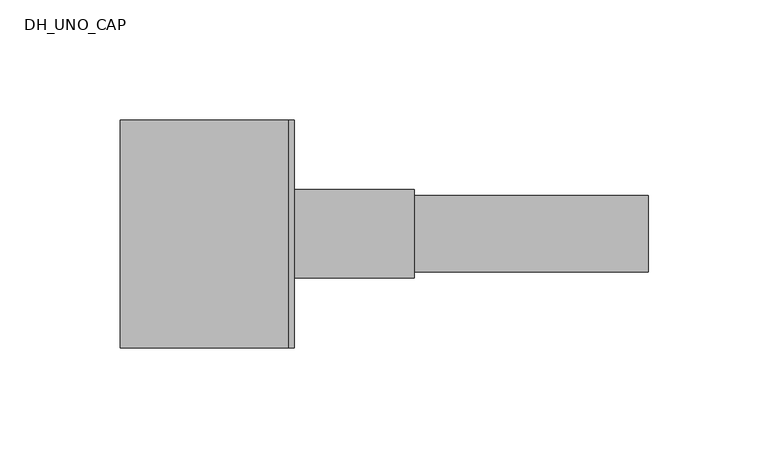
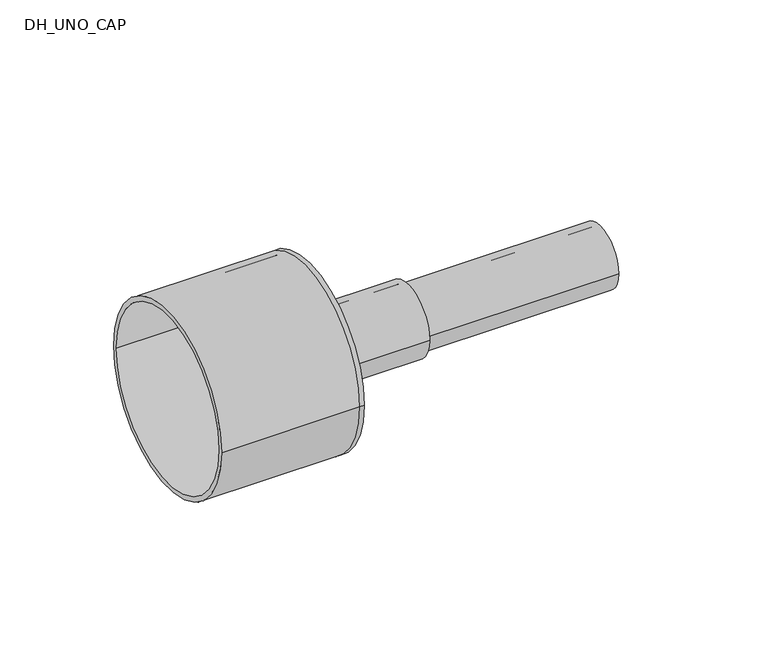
"""IFC4 building model written with IfcOpenShell, lengths in millimetres: pipe fitting geometry, DH_UNO_CAP : INSULPEX UNO + 11 Heating - Rubber Cap."""

from ifc_helpers import new_model, si_unit, point, frame, origin, origin_2d, place, context, project, spatial, polyline, circle_curve, trimmed, segment, composite_curve, outline, extrude, source, transform, mapped, element, save
from ifc_brep_helpers import plane_surface, cylinder_surface, revolved_surface, advanced_brep


def dh_uno_cap_5460b27a(model_context):
    return source(origin(), model_context, "Body", "SolidModel", [
        extrude(outline(composite_curve([segment(trimmed(circle_curve(origin_2d(), 16.0), [point((-16.0, 0.0))], [point((16.0, 0.0))], False, "CARTESIAN"), True, "CONTINUOUS"), segment(trimmed(circle_curve(origin_2d(), 16.0), [point((16.0, 0.0))], [point((-16.0, 0.0))], False, "CARTESIAN"), True, "CONTINUOUS")], self_intersect=False), holes=[composite_curve([segment(trimmed(circle_curve(origin_2d(), 13.1), [point((-13.1, 0.0))], [point((13.1, 0.0))], True, "CARTESIAN"), True, "CONTINUOUS"), segment(trimmed(circle_curve(origin_2d(), 13.1), [point((13.1, 0.0))], [point((-13.1, 0.0))], True, "CARTESIAN"), True, "CONTINUOUS")], self_intersect=False)]), frame((0.0, 0.0, 0.0), z_axis=(1.0, 0.0, 0.0), x_axis=(0.0, 1.0, 0.0)), (0.0, 0.0, 1.0), 150.0),
        advanced_brep(
        [(-70.0, -47.5, 0.0), (-70.0, 47.5, 0.0), (-70.0, -45.0, 0.0), (-70.0, 45.0, 0.0), (0.0, -45.0, 0.0), (0.0, 45.0, 0.0), (0.0, -47.5, 0.0), (0.0, 47.5, 0.0), (0.0, 16.0, 0.0), (0.0, -16.0, 0.0), (2.5, -47.5, 0.0), (2.5, 47.5, 0.0), (2.5, -16.0, 0.0), (2.5, 16.0, 0.0)],
        [
            (0, 1, circle_curve(frame((-70.0, 0.0, 0.0), z_axis=(-1.0, 0.0, 0.0), x_axis=(0.0, 1.0, 0.0)), 47.5)),
            (1, 0, circle_curve(frame((-70.0, 0.0, 0.0), z_axis=(-1.0, 0.0, 0.0), x_axis=(0.0, 1.0, 0.0)), 47.5)),
            (2, 3, circle_curve(frame((-70.0, 0.0, 0.0), z_axis=(1.0, 0.0, 0.0), x_axis=(0.0, 1.0, 0.0)), 45.0)),
            (3, 2, circle_curve(frame((-70.0, 0.0, 0.0), z_axis=(1.0, 0.0, 0.0), x_axis=(0.0, 1.0, 0.0)), 45.0)),
            (2, 4),
            (4, 5, circle_curve(frame((0.0, 0.0, 0.0), z_axis=(1.0, 0.0, 0.0), x_axis=(0.0, 1.0, 0.0)), 45.0)),
            (5, 3),
            (5, 4, circle_curve(frame((0.0, 0.0, 0.0), z_axis=(1.0, 0.0, 0.0), x_axis=(0.0, 1.0, 0.0)), 45.0)),
            (0, 6),
            (6, 7, circle_curve(frame((0.0, 0.0, 0.0), z_axis=(-1.0, 0.0, 0.0), x_axis=(0.0, 1.0, 0.0)), 47.5)),
            (7, 1),
            (7, 6, circle_curve(frame((0.0, 0.0, 0.0), z_axis=(-1.0, 0.0, 0.0), x_axis=(0.0, 1.0, 0.0)), 47.5)),
            (8, 9, circle_curve(frame((0.0, 0.0, 0.0), z_axis=(1.0, 0.0, 0.0), x_axis=(0.0, 1.0, 0.0)), 16.0)),
            (9, 8, circle_curve(frame((0.0, 0.0, 0.0), z_axis=(1.0, 0.0, 0.0), x_axis=(0.0, 1.0, 0.0)), 16.0)),
            (10, 11, circle_curve(frame((2.5, 0.0, 0.0), z_axis=(1.0, 0.0, 0.0), x_axis=(0.0, 1.0, 0.0)), 47.5)),
            (11, 10, circle_curve(frame((2.5, 0.0, 0.0), z_axis=(1.0, 0.0, 0.0), x_axis=(0.0, 1.0, 0.0)), 47.5)),
            (12, 13, circle_curve(frame((2.5, 0.0, 0.0), z_axis=(-1.0, 0.0, 0.0), x_axis=(0.0, 1.0, 0.0)), 16.0)),
            (13, 12, circle_curve(frame((2.5, 0.0, 0.0), z_axis=(-1.0, 0.0, 0.0), x_axis=(0.0, 1.0, 0.0)), 16.0)),
            (11, 7),
            (6, 10),
            (8, 13),
            (12, 9),
        ],
        [
            plane_surface(frame((-70.0, 0.0, 0.0), z_axis=(-1.0, 0.0, 0.0), x_axis=(0.0, 0.0, 1.0))),
            revolved_surface(polyline([(0.0, 45.0, 0.0), (-70.0, 45.0, 0.0)]), (-70.0, 0.0, 0.0), (1.0, 0.0, 0.0)),
            cylinder_surface(frame((-70.0, 0.0, 0.0), z_axis=(-1.0, 0.0, 0.0), x_axis=(0.0, 1.0, 0.0)), 47.5),
            plane_surface(frame((0.0, 0.0, 0.0), z_axis=(-1.0, 0.0, 0.0), x_axis=(0.0, 0.0, 1.0))),
            plane_surface(frame((2.5, 0.0, 0.0), z_axis=(1.0, 0.0, 0.0), x_axis=(0.0, 0.0, 1.0))),
            cylinder_surface(frame((0.0, 0.0, 0.0), z_axis=(-1.0, 0.0, 0.0), x_axis=(0.0, 1.0, 0.0)), 47.5),
            revolved_surface(polyline([(0.0, 16.0, 0.0), (2.5, 16.0, 0.0)]), (0.0, 0.0, 0.0), (-1.0, 0.0, 0.0)),
        ],
        [
            (0, [[1, 2], [3, 4]]),
            (1, [[-3, 5, 6, 7]]),
            (1, [[-4, -7, 8, -5]]),
            (2, [[-1, 9, 10, 11]]),
            (2, [[-2, -11, 12, -9]]),
            (3, [[-6, -8], [13, 14]]),
            (4, [[15, 16], [17, 18]]),
            (5, [[-16, 19, -10, 20]]),
            (5, [[-15, -20, -12, -19]]),
            (6, [[21, -17, 22, -13]]),
            (6, [[-21, -14, -22, -18]]),
        ],
    ),
        extrude(outline(composite_curve([segment(trimmed(circle_curve(origin_2d(), 18.5), [point((-18.5, 0.0))], [point((18.5, 0.0))], False, "CARTESIAN"), True, "CONTINUOUS"), segment(trimmed(circle_curve(origin_2d(), 18.5), [point((18.5, 0.0))], [point((-18.5, 0.0))], False, "CARTESIAN"), True, "CONTINUOUS")], self_intersect=False), holes=[composite_curve([segment(trimmed(circle_curve(origin_2d(), 16.0), [point((-16.0, 0.0))], [point((16.0, 0.0))], True, "CARTESIAN"), True, "CONTINUOUS"), segment(trimmed(circle_curve(origin_2d(), 16.0), [point((16.0, 0.0))], [point((-16.0, 0.0))], True, "CARTESIAN"), True, "CONTINUOUS")], self_intersect=False)]), frame((2.5, 0.0, 0.0), z_axis=(1.0, 0.0, 0.0), x_axis=(0.0, 1.0, 0.0)), (0.0, 0.0, 1.0), 50.0),
    ])


if __name__ == "__main__":
    model = new_model("IFC4")
    model_context = context("Model", 3, world=origin())
    ifc_project = project(units=[si_unit("LENGTHUNIT", "METRE", prefix="MILLI")], contexts=[model_context])
    site = spatial("IfcSite", under=ifc_project)
    building = spatial("IfcBuilding", under=site)
    placement = place(None, origin())
    dh_uno_cap_shape = dh_uno_cap_5460b27a(model_context)
    element("IfcPipeFitting", 1, ObjectType="DH_UNO_CAP : INSULPEX UNO + 11 Heating - Rubber Cap", at=placement, inside=building, context=model_context, shape_type="MappedRepresentation", body=[
        mapped(dh_uno_cap_shape, transform((0.0, 0.0, 0.0), x_axis=(1.0, 0.0, 0.0), y_axis=(0.0, 1.0, 0.0), z_axis=(0.0, 0.0, 1.0))),
    ])
    save(model, "model.ifc")
